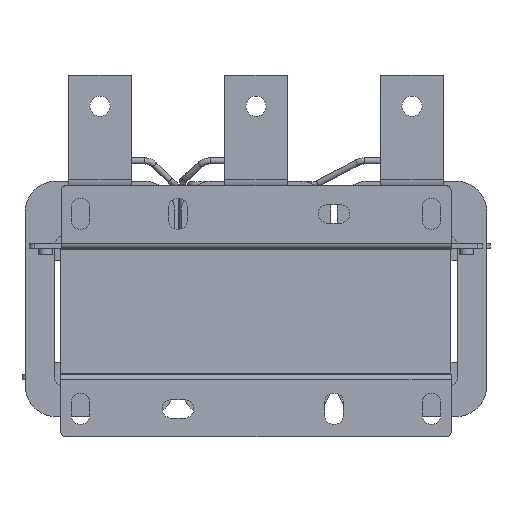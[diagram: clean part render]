
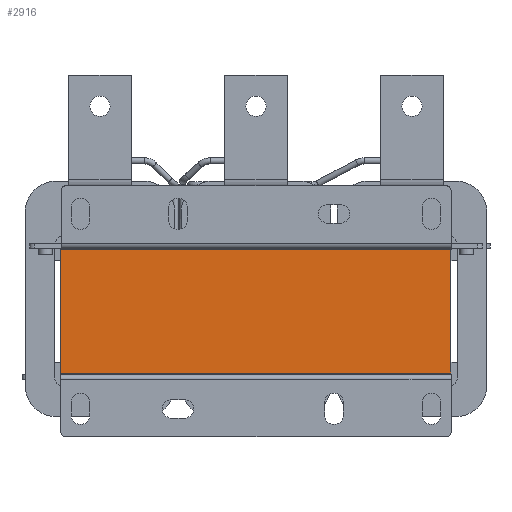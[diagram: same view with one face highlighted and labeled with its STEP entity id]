
A CAD part, front view. The second image highlights one B-rep face of the part: STEP entity #2916.
In plain terms, the highlighted planar face has unit normal (0, -1, 0).
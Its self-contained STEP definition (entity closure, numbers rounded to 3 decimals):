
#2916=ADVANCED_FACE('',(#8815),#8817,.F.);
#8815=FACE_BOUND('',#8816,.T.);
#8816=EDGE_LOOP('',(#16859,#16860,#16861,#16862));
#8817=PLANE('',#8818);
#8818=AXIS2_PLACEMENT_3D('',#8819,#8820,#8821);
#8819=CARTESIAN_POINT('',(-125.,-139.5,79.));
#8820=DIRECTION('',(0.,1.,0.));
#8821=DIRECTION('',(0.,0.,1.));
#16859=ORIENTED_EDGE('',*,*,#19872,.T.);
#16860=ORIENTED_EDGE('',*,*,#19884,.F.);
#16861=ORIENTED_EDGE('',*,*,#19862,.F.);
#16862=ORIENTED_EDGE('',*,*,#19886,.T.);
#19862=EDGE_CURVE('',#21400,#21395,#21402,.T.);
#19872=EDGE_CURVE('',#21422,#21419,#21423,.T.);
#19884=EDGE_CURVE('',#21395,#21419,#21444,.T.);
#19886=EDGE_CURVE('',#21400,#21422,#21446,.T.);
#21395=VERTEX_POINT('',#24014);
#21400=VERTEX_POINT('',#24023);
#21402=LINE('',#24027,#24028);
#21419=VERTEX_POINT('',#24062);
#21422=VERTEX_POINT('',#24067);
#21423=LINE('',#24068,#24069);
#21444=LINE('',#24113,#24114);
#21446=LINE('',#24119,#24120);
#24014=CARTESIAN_POINT('',(125.,-139.5,79.));
#24023=CARTESIAN_POINT('',(-125.,-139.5,79.));
#24027=CARTESIAN_POINT('',(-125.,-139.5,79.));
#24028=VECTOR('',#24029,1.);
#24029=DIRECTION('',(1.,0.,0.));
#24062=CARTESIAN_POINT('',(125.,-139.5,0.));
#24067=CARTESIAN_POINT('',(-125.,-139.5,0.));
#24068=CARTESIAN_POINT('',(-125.,-139.5,0.));
#24069=VECTOR('',#24070,1.);
#24070=DIRECTION('',(1.,0.,0.));
#24113=CARTESIAN_POINT('',(125.,-139.5,79.));
#24114=VECTOR('',#24115,1.);
#24115=DIRECTION('',(0.,0.,-1.));
#24119=CARTESIAN_POINT('',(-125.,-139.5,79.));
#24120=VECTOR('',#24121,1.);
#24121=DIRECTION('',(0.,0.,-1.));
